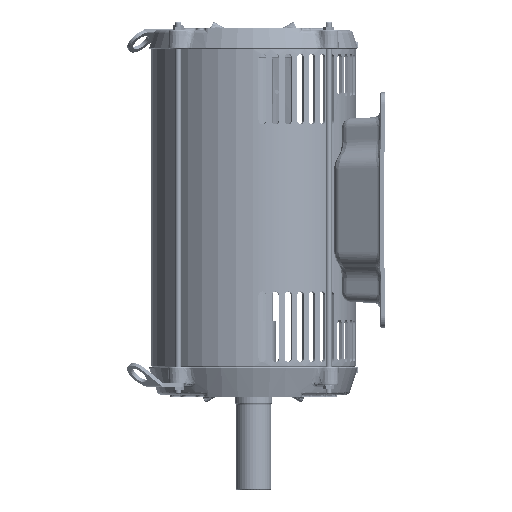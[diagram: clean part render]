
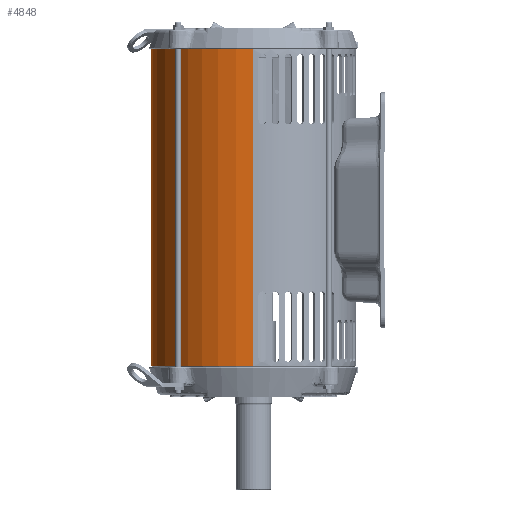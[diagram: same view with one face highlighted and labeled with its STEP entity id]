
A CAD part, left-side view. The second image highlights one B-rep face of the part: STEP entity #4848.
In plain terms, the highlighted cylindrical face has radius 137.879 mm (diameter 275.758 mm), a partial arc.
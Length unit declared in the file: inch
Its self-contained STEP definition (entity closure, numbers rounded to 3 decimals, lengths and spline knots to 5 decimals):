
#1=CARTESIAN_POINT('',(-5.28242,1.25,-6.2685));
#2=CARTESIAN_POINT('',(-5.27929,1.26323,-6.2685));
#3=CARTESIAN_POINT('',(-5.27333,1.28798,-6.26404));
#4=CARTESIAN_POINT('',(-5.26483,1.32224,-6.24436));
#5=CARTESIAN_POINT('',(-5.25855,1.34692,-6.2145));
#6=CARTESIAN_POINT('',(-5.25519,1.35995,-6.17859));
#7=CARTESIAN_POINT('',(-5.25514,1.36012,-6.14017));
#8=CARTESIAN_POINT('',(-5.2585,1.34713,-6.10391));
#9=CARTESIAN_POINT('',(-5.26467,1.32287,-6.07417));
#10=CARTESIAN_POINT('',(-5.27327,1.28824,-6.05398));
#11=CARTESIAN_POINT('',(-5.27926,1.26334,-6.0495));
#12=CARTESIAN_POINT('',(-5.28242,1.25,-6.0495));
#14=CARTESIAN_POINT('',(-5.28242,1.25,-6.0495));
#15=CARTESIAN_POINT('',(-5.28554,1.2368,-6.0495));
#16=CARTESIAN_POINT('',(-5.29129,1.21209,-6.05394));
#17=CARTESIAN_POINT('',(-5.29899,1.17789,-6.07354));
#18=CARTESIAN_POINT('',(-5.30441,1.15315,-6.10336));
#19=CARTESIAN_POINT('',(-5.30724,1.14004,-6.13935));
#20=CARTESIAN_POINT('',(-5.30727,1.13987,-6.17791));
#21=CARTESIAN_POINT('',(-5.30446,1.15294,-6.21424));
#22=CARTESIAN_POINT('',(-5.29913,1.17727,-6.24395));
#23=CARTESIAN_POINT('',(-5.29134,1.21187,-6.26405));
#24=CARTESIAN_POINT('',(-5.28556,1.23672,-6.2685));
#25=CARTESIAN_POINT('',(-5.28242,1.25,-6.2685));
#27=CARTESIAN_POINT('',(0.,0.,8.416));
#28=DIRECTION('',(0.,0.,-1.));
#29=DIRECTION('',(-1.,0.,0.));
#30=AXIS2_PLACEMENT_3D('',#27,#28,#29);
#32=CARTESIAN_POINT('',(0.,0.,-4.099));
#33=DIRECTION('',(0.,0.,1.));
#34=DIRECTION('',(-0.993,0.114,0.));
#35=AXIS2_PLACEMENT_3D('',#32,#33,#34);
#37=CARTESIAN_POINT('',(-5.37624,0.75,-4.229));
#38=CARTESIAN_POINT('',(-5.37624,0.75,-4.21515));
#39=CARTESIAN_POINT('',(-5.37683,0.74581,-4.18885));
#40=CARTESIAN_POINT('',(-5.37937,0.72732,-4.15184));
#41=CARTESIAN_POINT('',(-5.38325,0.69818,-4.12238));
#42=CARTESIAN_POINT('',(-5.38797,0.66087,-4.10336));
#43=CARTESIAN_POINT('',(-5.39115,0.63414,-4.099));
#44=CARTESIAN_POINT('',(-5.39278,0.62,-4.099));
#46=DIRECTION('',(0.,0.,1.));
#47=VECTOR('',#46,2.99);
#48=CARTESIAN_POINT('',(-5.37624,0.75,-7.219));
#49=LINE('',#48,#47);
#50=CARTESIAN_POINT('',(-5.39278,0.62,-7.349));
#51=CARTESIAN_POINT('',(-5.39117,0.63396,-7.349));
#52=CARTESIAN_POINT('',(-5.38802,0.66044,-7.34474));
#53=CARTESIAN_POINT('',(-5.38333,0.69757,-7.32604));
#54=CARTESIAN_POINT('',(-5.37943,0.72691,-7.29675));
#55=CARTESIAN_POINT('',(-5.37684,0.74572,-7.25955));
#56=CARTESIAN_POINT('',(-5.37624,0.75,-7.233));
#57=CARTESIAN_POINT('',(-5.37624,0.75,-7.219));
#59=CARTESIAN_POINT('',(0.,0.,-7.349));
#60=DIRECTION('',(0.,0.,1.));
#61=DIRECTION('',(-0.993,0.114,0.));
#62=AXIS2_PLACEMENT_3D('',#59,#60,#61);
#64=CARTESIAN_POINT('',(0.,0.,-8.426));
#65=DIRECTION('',(0.,0.,-1.));
#66=DIRECTION('',(-1.,0.,0.));
#67=AXIS2_PLACEMENT_3D('',#64,#65,#66);
#69=DIRECTION('',(0.,0.,1.));
#70=VECTOR('',#69,16.842);
#71=CARTESIAN_POINT('',(5.4283,0.,-8.426));
#72=LINE('',#71,#70);
#1735=DIRECTION('',(0.,0.,1.));
#1736=VECTOR('',#1735,1.077);
#1737=CARTESIAN_POINT('',(-5.4283,0.,-8.426));
#1738=LINE('',#1737,#1736);
#1771=DIRECTION('',(0.,0.,1.));
#1772=VECTOR('',#1771,12.515);
#1773=CARTESIAN_POINT('',(-5.4283,0.,-4.099));
#1774=LINE('',#1773,#1772);
#4729=VERTEX_POINT('',#1);
#4730=VERTEX_POINT('',#12);
#4731=VERTEX_POINT('',#37);
#4732=VERTEX_POINT('',#44);
#4733=CARTESIAN_POINT('',(-5.4283,0.,-4.099));
#4734=VERTEX_POINT('',#4733);
#4735=CARTESIAN_POINT('',(-5.39278,0.62,-7.349));
#4736=CARTESIAN_POINT('',(-5.4283,0.,-7.349));
#4737=VERTEX_POINT('',#4735);
#4738=VERTEX_POINT('',#4736);
#4739=VERTEX_POINT('',#57);
#4799=CARTESIAN_POINT('',(-5.4283,0.,8.416));
#4800=CARTESIAN_POINT('',(5.4283,0.,8.416));
#4801=VERTEX_POINT('',#4799);
#4802=VERTEX_POINT('',#4800);
#4803=CARTESIAN_POINT('',(-5.4283,0.,-8.426));
#4804=CARTESIAN_POINT('',(5.4283,0.,-8.426));
#4805=VERTEX_POINT('',#4803);
#4806=VERTEX_POINT('',#4804);
#4815=CARTESIAN_POINT('',(0.,0.,-8.69));
#4816=DIRECTION('',(0.,0.,1.));
#4817=DIRECTION('',(1.,0.,0.));
#4818=AXIS2_PLACEMENT_3D('',#4815,#4816,#4817);
#4819=CYLINDRICAL_SURFACE('',#4818,5.4283);
#4821=ORIENTED_EDGE('',*,*,#4820,.F.);
#4823=ORIENTED_EDGE('',*,*,#4822,.F.);
#4825=ORIENTED_EDGE('',*,*,#4824,.F.);
#4827=ORIENTED_EDGE('',*,*,#4826,.F.);
#4829=ORIENTED_EDGE('',*,*,#4828,.F.);
#4831=ORIENTED_EDGE('',*,*,#4830,.F.);
#4833=ORIENTED_EDGE('',*,*,#4832,.T.);
#4835=ORIENTED_EDGE('',*,*,#4834,.F.);
#4837=ORIENTED_EDGE('',*,*,#4836,.T.);
#4839=ORIENTED_EDGE('',*,*,#4838,.T.);
#4840=EDGE_LOOP('',(#4821,#4823,#4825,#4827,#4829,#4831,#4833,#4835,#4837,
#4839));
#4841=FACE_OUTER_BOUND('',#4840,.F.);
#4843=ORIENTED_EDGE('',*,*,#4842,.F.);
#4845=ORIENTED_EDGE('',*,*,#4844,.F.);
#4846=EDGE_LOOP('',(#4843,#4845));
#4847=FACE_BOUND('',#4846,.F.);
#4848=ADVANCED_FACE('',(#4841,#4847),#4819,.T.);
#13=B_SPLINE_CURVE_WITH_KNOTS('',3,(#1,#2,#3,#4,#5,#6,#7,#8,#9,#10,#11,#12),
.UNSPECIFIED.,.F.,.F.,(4,1,1,1,1,1,1,1,1,4),(0.,0.11111,
0.22222,0.33333,0.44444,0.55556,
0.66667,0.77778,0.88889,1.),.UNSPECIFIED.);
#26=B_SPLINE_CURVE_WITH_KNOTS('',3,(#14,#15,#16,#17,#18,#19,#20,#21,#22,#23,#24,
#25),.UNSPECIFIED.,.F.,.F.,(4,1,1,1,1,1,1,1,1,4),(0.,0.11111,
0.22222,0.33333,0.44444,0.55556,
0.66667,0.77778,0.88889,1.),.UNSPECIFIED.);
#31=CIRCLE('',#30,5.4283);
#36=CIRCLE('',#35,5.4283);
#45=B_SPLINE_CURVE_WITH_KNOTS('',3,(#37,#38,#39,#40,#41,#42,#43,#44),
.UNSPECIFIED.,.F.,.F.,(4,1,1,1,1,4),(0.,0.2,0.4,0.6,0.8,1.),
.UNSPECIFIED.);
#58=B_SPLINE_CURVE_WITH_KNOTS('',3,(#50,#51,#52,#53,#54,#55,#56,#57),
.UNSPECIFIED.,.F.,.F.,(4,1,1,1,1,4),(0.,0.2,0.4,0.6,0.8,1.),
.UNSPECIFIED.);
#63=CIRCLE('',#62,5.4283);
#68=CIRCLE('',#67,5.4283);
#4820=EDGE_CURVE('',#4801,#4802,#31,.T.);
#4822=EDGE_CURVE('',#4734,#4801,#1774,.T.);
#4824=EDGE_CURVE('',#4732,#4734,#36,.T.);
#4826=EDGE_CURVE('',#4731,#4732,#45,.T.);
#4828=EDGE_CURVE('',#4739,#4731,#49,.T.);
#4830=EDGE_CURVE('',#4737,#4739,#58,.T.);
#4832=EDGE_CURVE('',#4737,#4738,#63,.T.);
#4834=EDGE_CURVE('',#4805,#4738,#1738,.T.);
#4836=EDGE_CURVE('',#4805,#4806,#68,.T.);
#4838=EDGE_CURVE('',#4806,#4802,#72,.T.);
#4842=EDGE_CURVE('',#4729,#4730,#13,.T.);
#4844=EDGE_CURVE('',#4730,#4729,#26,.T.);
